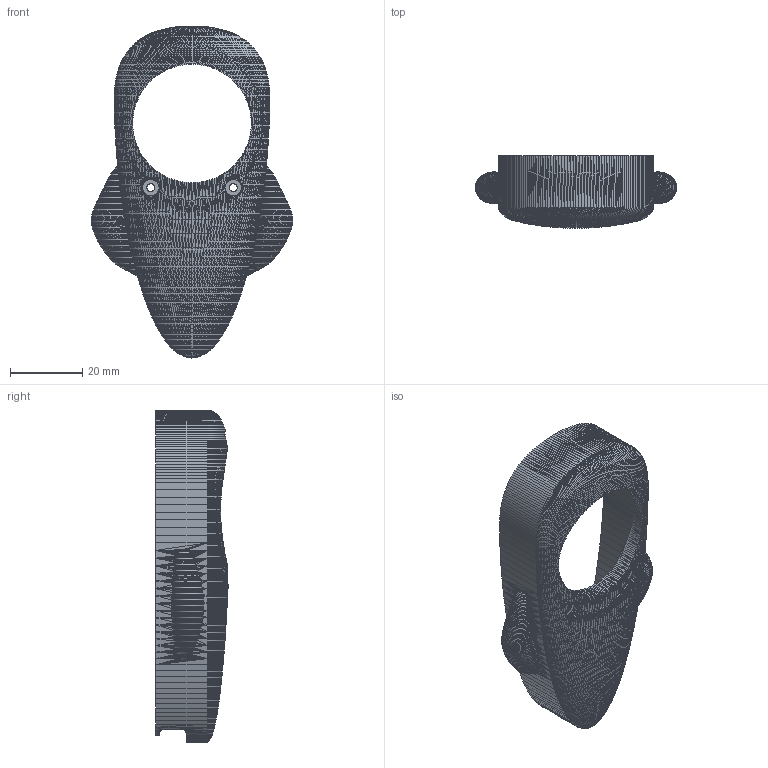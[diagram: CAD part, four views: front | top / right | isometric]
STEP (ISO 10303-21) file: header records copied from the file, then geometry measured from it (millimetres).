
FILE_DESCRIPTION(('Open CASCADE Model'),'2;1');
FILE_NAME('Open CASCADE Shape Model','2026-11-13T23:27:01',('Author'),( 'Open CASCADE'),'Open CASCADE STEP processor 7.9','Open CASCADE 7.9' ,'Unknown');
FILE_SCHEMA(('AUTOMOTIVE_DESIGN { 1 0 10303 214 1 1 1 1 }'));
Products named in the file (1): Open CASCADE STEP translator 7.9 1
Bounding box: 55.85 x 20.03 x 92 mm (x, y, z)
Volume: 16660.7 mm3; surface area: 13002.1 mm2
Topology: 1 solids, 1 shells, 31147 faces, 48605 edges, 17460 vertices
Faces by surface type: plane 31147
Entity records: 1211782 total; most frequent: CARTESIAN_POINT 238867, DIRECTION 163667, LINE 101371, VECTOR 101371, ORIENTED_EDGE 97210, PCURVE 97210, DEFINITIONAL_REPRESENTATION 97210, EDGE_CURVE 48605
